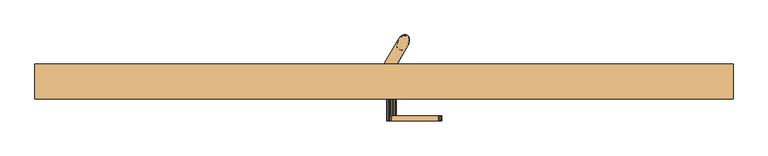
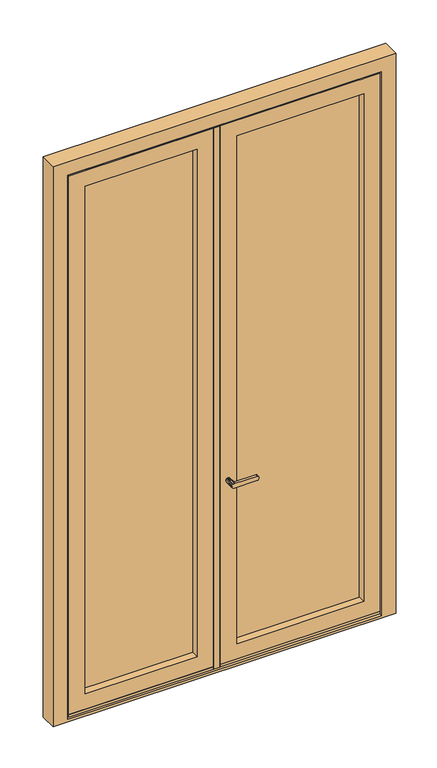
"""IFC4 building model written with IfcOpenShell, lengths in millimetres: door geometry, RDC Tierce."""

from ifc_helpers import new_model, si_unit, frame, origin, place, context, project, spatial, polyline, outline, extrude, faceted_brep, source, transform, mapped, element, save


def door_b7e93c7d(model_context):
    return source(origin(), model_context, "Body", "SolidModel", [
        extrude(outline(polyline([(83.0, 510.0), (83.0, 518.3), (842.0, 518.3), (842.0, 510.0), (83.0, 510.0)])), frame((0.0, 0.0, 176.0160203), z_axis=(0.0, 0.0, 1.0), x_axis=(1.0, 0.0, 0.0)), (0.0, 0.0, 1.0), 13.9839797),
        faceted_brep([(1724.0, 510.0, 3184.0), (1724.0, 518.3, 3184.0), (1724.0, 518.3, 167.8651688), (1724.0, 510.0, 165.0072496), (76.0, 518.3, 3184.0), (76.0, 518.3, 167.8651688), (55.5, 518.3, 167.8651688), (55.5, 518.3, 3204.5), (1744.5, 518.3, 3204.5), (1744.5, 518.3, 167.8651688), (1744.5, 591.7, 3204.5), (1744.5, 591.7, 164.3), (1744.5, 532.0, 164.3), (1744.5, 532.0, 170.0), (1744.5, 524.5, 170.0), (1756.0, 599.9993365, 150.0), (1756.0, 591.7, 150.0), (1756.0, 591.7, 3216.0), (1756.0, 599.9993365, 3216.0), (1800.0, 599.9993365, 150.0), (44.0, 599.9993365, 3216.0), (44.0, 599.9993365, 150.0), (0.0, 599.9993365, 150.0), (0.0, 599.9993365, 3260.0), (1800.0, 599.9993365, 3260.0), (76.0, 510.0, 3184.0), (76.0, 510.0, 165.0072496), (44.0, 591.7, 3216.0), (44.0, 591.7, 150.0), (55.5, 591.7, 3204.5), (55.5, 524.5, 170.0), (55.5, 532.0, 170.0), (55.5, 532.0, 164.3), (55.5, 591.7, 164.3), (0.0, 510.0, 3260.0), (1800.0, 510.0, 3260.0), (1800.0, 510.0, 150.0), (0.0, 510.0, 150.0)], [[[0, 1, 2, 3]], [[1, 4, 5, 6, 7, 8, 9, 2]], [[8, 10, 11, 12, 13, 14, 9]], [[15, 16, 17, 18]], [[19, 15, 18, 20, 21, 22, 23, 24]], [[4, 25, 26, 5]], [[20, 27, 28, 21]], [[29, 7, 6, 30, 31, 32, 33]], [[25, 4, 1, 0]], [[27, 20, 18, 17]], [[23, 34, 35, 24]], [[8, 7, 29, 10]], [[19, 24, 35, 36]], [[34, 23, 22, 37]], [[35, 34, 37, 36], [25, 0, 3, 26]], [[16, 15, 19, 36, 37, 22, 21, 28]], [[14, 30, 6, 5, 26, 3, 2, 9]], [[27, 17, 16, 28], [11, 10, 29, 33]], [[32, 12, 11, 33]], [[12, 32, 31, 13]], [[13, 31, 30, 14]]]),
        faceted_brep([(869.5, 518.3, 3188.5), (869.5, 591.7, 3188.5), (869.5, 591.7, 178.5), (869.5, 518.3, 178.5), (849.0, 591.7, 3209.0), (849.0, 591.7, 158.0), (1749.0, 591.7, 158.0), (1749.0, 591.7, 3209.0), (1728.5, 591.7, 3188.5), (1728.5, 591.7, 178.5), (1728.5, 518.3, 178.5), (1728.5, 518.3, 3188.5), (1717.0, 518.3, 3177.0), (1717.0, 518.3, 190.0), (881.0, 518.3, 190.0), (881.0, 518.3, 3177.0), (881.0, 510.0, 3177.0), (881.0, 510.0, 190.0), (1717.0, 510.0, 190.0), (1717.0, 510.0, 3177.0), (1631.9999695, 510.0, 3091.9999695), (1631.9999695, 510.0, 275.0000305), (966.0000305, 510.0, 275.0000305), (966.0000305, 510.0, 3091.9999695), (966.0000305, 551.0, 3091.9999695), (966.0000305, 551.0, 275.0000305), (1631.9999695, 551.0, 275.0000305), (1647.0, 551.0, 3107.0), (1647.0, 551.0, 260.0), (951.0, 551.0, 260.0), (951.0, 551.0, 3107.0), (1631.9999695, 551.0, 3091.9999695), (951.0, 589.0, 3107.0), (951.0, 589.0, 260.0), (1647.0, 589.0, 260.0), (1647.0, 589.0, 3107.0), (1630.0, 589.0, 3090.0), (1630.0, 589.0, 277.0), (968.0, 589.0, 277.0), (968.0, 589.0, 3090.0), (968.0, 600.0, 3090.0), (968.0, 600.0, 277.0), (1630.0, 600.0, 277.0), (1749.0, 600.0, 3209.0), (1749.0, 600.0, 158.0), (849.0, 600.0, 158.0), (849.0, 600.0, 3209.0), (1630.0, 600.0, 3090.0)], [[[0, 1, 2, 3]], [[4, 5, 6, 7], [8, 9, 2, 1]], [[3, 2, 9, 10]], [[0, 3, 10, 11], [12, 13, 14, 15]], [[16, 15, 14, 17]], [[17, 14, 13, 18]], [[16, 17, 18, 19], [20, 21, 22, 23]], [[24, 23, 22, 25]], [[25, 22, 21, 26]], [[27, 28, 29, 30], [24, 25, 26, 31]], [[32, 30, 29, 33]], [[33, 29, 28, 34]], [[32, 33, 34, 35], [36, 37, 38, 39]], [[40, 39, 38, 41]], [[41, 38, 37, 42]], [[43, 44, 45, 46], [40, 41, 42, 47]], [[4, 46, 45, 5]], [[5, 45, 44, 6]], [[10, 9, 8, 11]], [[18, 13, 12, 19]], [[26, 21, 20, 31]], [[34, 28, 27, 35]], [[42, 37, 36, 47]], [[6, 44, 43, 7]], [[11, 8, 1, 0]], [[19, 12, 15, 16]], [[31, 20, 23, 24]], [[35, 27, 30, 32]], [[47, 36, 39, 40]], [[7, 43, 46, 4]]]),
        faceted_brep([(964.2287431, 669.5957857, 3153.5), (962.3389959, 672.5301259, 3153.5), (959.7797595, 674.6325784, 3153.5), (956.6793647, 675.7977178, 3153.5), (953.1932781, 675.9671188, 3153.5), (949.4963068, 675.1322872, 3153.5), (945.7738322, 673.3350848, 3153.5), (942.212515, 670.6656309, 3153.5), (938.9909342, 667.257783, 3153.5), (936.2706335, 663.2824248, 3153.5), (934.1880202, 658.9388975, 3153.5), (932.847525, 654.4450036, 3153.5), (932.3163661, 650.0260857, 3153.5), (932.6211779, 645.9037268, 3153.5), (933.7466761, 642.2846393, 3153.5), (935.6364232, 639.3502991, 3153.5), (938.1956596, 637.2478466, 3153.5), (941.2960545, 636.0827073, 3153.5), (944.7821411, 635.9133062, 3153.5), (948.4791124, 636.7481378, 3153.5), (952.2015869, 638.5453402, 3153.5), (955.7629042, 641.2147941, 3153.5), (958.9844849, 644.622642, 3153.5), (961.7047856, 648.5980002, 3153.5), (963.787399, 652.9415275, 3153.5), (965.1278941, 657.4354214, 3153.5), (965.6590531, 661.8543393, 3153.5), (965.3542412, 665.9766982, 3153.5), (941.2960545, 636.0827073, 213.5), (938.1956596, 637.2478466, 213.5), (935.6364232, 639.3502991, 213.5), (933.7466761, 642.2846393, 213.5), (932.6211779, 645.9037268, 213.5), (932.3163661, 650.0260857, 213.5), (932.847525, 654.4450036, 213.5), (934.1880202, 658.9388975, 213.5), (936.2706335, 663.2824248, 213.5), (938.9909342, 667.257783, 213.5), (942.212515, 670.6656309, 213.5), (945.7738322, 673.3350848, 213.5), (949.4963068, 675.1322872, 213.5), (953.1932781, 675.9671188, 213.5), (956.6793647, 675.7977178, 213.5), (959.7797595, 674.6325784, 213.5), (962.3389959, 672.5301259, 213.5), (964.2287431, 669.5957857, 213.5), (965.3542412, 665.9766982, 213.5), (965.6590531, 661.8543393, 213.5), (965.1278941, 657.4354214, 213.5), (963.787399, 652.9415275, 213.5), (961.7047856, 648.5980002, 213.5), (958.9844849, 644.622642, 213.5), (955.7629042, 641.2147941, 213.5), (952.2015869, 638.5453402, 213.5), (948.4791124, 636.7481378, 213.5), (944.7821411, 635.9133062, 213.5), (959.5501855, 674.7611228, 3089.7321538), (964.8914925, 667.8611962, 306.4221304), (961.7047856, 648.5980002, 305.5697523), (951.359707, 675.6737836, 3060.5778671), (951.3597056, 675.6737832, 297.5419121), (958.2880419, 675.3371112, 368.2635006), (946.2900651, 673.6420789, 369.5898573), (952.7439949, 675.9179429, 447.3382127), (960.4070198, 674.2387511, 2325.2617526), (965.6393196, 663.5166736, 2371.270511), (965.6402039, 663.4993464, 2279.4216291), (961.1357621, 673.6929778, 2998.7364846), (965.6668016, 662.4549118, 2997.4101505), (964.4138734, 669.1747858, 2922.6711926), (961.7047856, 648.5980002, 3061.4302477), (936.2706335, 663.2824248, 3061.4302446), (936.2706335, 663.2824248, 305.5697496), (948.8832653, 674.9019683, 2971.9520928), (961.7047856, 648.5980002, 397.6395047), (965.4613001, 665.3306248, 395.0479211), (960.0058696, 674.4980332, 277.2678401), (947.4593332, 674.2677615, 1637.7851435), (936.2706335, 663.2824248, 1594.5462904), (936.2706335, 663.2824248, 1683.5), (936.2706335, 663.2824248, 1686.61604), (957.9473277, 675.4583328, 527.5908333), (962.8328313, 671.9295452, 460.5450652), (958.0412337, 675.4262682, 2772.7066085), (959.132128, 674.9754772, 2695.0987736), (947.1795786, 674.1267542, 2740.9388958), (964.8914918, 667.8611986, 3069.4580815), (959.7797596, 674.6325784, 1042.1278204), (947.9948217, 674.5225872, 991.9696377), (947.444062, 674.2602042, 1086.1174943), (936.2706335, 663.2824248, 2969.360495), (947.735899, 674.4018393, 2832.4243889), (936.2706335, 663.2824248, 2786.7790086), (936.2706335, 663.2824248, 2877.290743), (936.2706335, 663.2824248, 2878.0697518), (958.1399278, 675.3914725, 765.8782308), (965.6350796, 663.5960372, 811.9534399), (965.6470668, 661.5048141, 719.8836883), (959.1321281, 674.9754772, 2603.3171294), (947.2122977, 674.1435263, 2649.2586503), (958.6914902, 675.1755778, 1961.6568095), (958.8079776, 675.1251495, 1871.2936098), (946.9399525, 674.0016473, 1915.8166862), (947.5216083, 674.2984129, 2187.4071194), (947.9162165, 674.4864172, 2282.5376683), (960.4070198, 674.2387512, 2233.5284009), (960.3560844, 674.273194, 945.9676716), (949.4102834, 675.1015175, 2371.5612773), (936.2706335, 663.2824248, 2328.3777678), (936.2706335, 663.2824248, 2416.9419812), (936.2706335, 663.2824248, 2420.0580171), (946.9399524, 674.0016472, 2004.6536365), (936.2706335, 663.2824248, 1961.6567821), (936.2706335, 663.2824248, 2050.2209906), (936.2706335, 663.2824248, 2053.3370314), (961.7047856, 648.5980002, 2233.5814859), (965.6293323, 663.6953803, 2185.7766291), (947.2617988, 674.1687597, 1180.2324452), (959.2109681, 674.936934, 1226.2673211), (959.2109682, 674.9369339, 1134.1403833), (947.2294745, 674.1523016, 1548.5114468), (959.1595289, 674.9621783, 1594.5463226), (959.1732382, 674.955486, 1502.5843687), (959.8901066, 674.5679242, 1321.4808949), (947.0593634, 674.064491, 1270.1486683), (965.5823008, 664.3143924, 2649.2079521), (961.7047856, 648.5980002, 2416.9419812), (961.7047856, 648.5980002, 2328.3777706), (961.7047856, 648.5980002, 2325.2617336), (936.2706335, 663.2824248, 1226.2672804), (936.2706335, 663.2824248, 1316.7790094), (936.2706335, 663.2824248, 1318.33703), (948.0268603, 674.537208, 2093.7326204), (959.8835237, 674.5718347, 2141.9012613), (965.6644577, 662.7549838, 2004.3808919), (965.5233186, 664.86819, 1912.7006463), (947.4544518, 674.2653476, 2554.8345692), (936.2706335, 663.2824248, 2511.7382664), (936.2706335, 663.2824248, 2601.0814859), (936.2706335, 663.2824248, 2603.4185157), (965.5805232, 664.3336366, 1180.2038525), (965.5328457, 664.788256, 1276.0346658), (961.7047856, 648.5980002, 581.7790094), (965.5916894, 664.2090554, 535.7441828), (965.6465704, 663.3647844, 625.7406746), (961.9841714, 672.9127478, 687.5049796), (952.9584629, 675.9432953, 618.4606327), (948.1093169, 674.574513, 710.5745419), (965.6255817, 663.7560342, 2555.0466232), (959.8870984, 674.5697121, 2511.7382826), (956.3273581, 675.8630559, 2912.7142893), (961.1753973, 673.6602495, 2846.4250582), (960.35827, 674.2717254, 2418.5417079), (948.1880756, 674.6097094, 2460.3494212), (948.1839058, 674.6078567, 1726.9545291), (947.4585124, 674.2673557, 1821.4385793), (959.8870984, 674.569712, 1778.2963186), (965.5858899, 664.2748807, 1548.6658357), (965.5209615, 664.8875291, 1644.3330014), (965.6579437, 663.052861, 1087.5784346), (959.8333021, 674.6014439, 1410.4068219), (948.0643525, 674.5542281, 1359.8515949), (947.462367, 674.2692609, 1454.202984), (958.5899933, 675.2181109, 1678.7255593), (965.6205639, 663.8328979, 1454.2994177), (961.7047856, 648.5980002, 1958.540743), (961.7047856, 648.5980002, 1869.9765385), (961.7047856, 648.5980002, 1866.8604953), (965.6423683, 663.4556578, 2462.9768728), (961.7047856, 648.5980002, 2509.0117336), (961.7047856, 648.5980002, 2420.0580171), (965.6539623, 663.177506, 1732.4217383), (961.7047856, 648.5980002, 1775.1802477), (961.7047856, 648.5980002, 1686.6160399), (961.7047856, 648.5980002, 1683.5), (965.6249603, 663.7658048, 998.1135269), (965.6661177, 662.6095868, 1362.6191719), (961.7047856, 648.5980002, 1408.459257), (961.7047856, 648.5980002, 1318.3370299), (961.7047856, 648.5980002, 1316.7790094), (965.6064591, 660.7982343, 461.0612604), (961.7047856, 648.5980002, 489.709257), (942.3682189, 670.8040573, 443.6744212), (936.2706335, 663.2824248, 397.639505), (936.2706335, 663.2824248, 489.7092604), (936.2706335, 663.2824248, 857.9882704), (936.2706335, 663.2824248, 950.05802), (948.9209698, 674.9168748, 901.7243662), (961.8620763, 673.0360903, 620.4664053), (961.7047856, 648.5980002, 673.8487617), (959.7797594, 674.6325785, 849.807523), (965.6477825, 663.3368163, 904.0231906), (947.2941739, 674.1851711, 811.9534434), (945.2462879, 673.0014505, 2903.945513), (936.2706335, 663.2824248, 2695.098765), (936.2706335, 663.2824248, 2785.2209906), (965.5206083, 664.8904118, 2745.2357332), (965.2919578, 658.2847045, 2914.6109501), (965.6656565, 662.6597778, 2855.6263498), (936.2706335, 663.2824248, 2693.1512383), (936.2706335, 663.2824248, 2509.0117336), (961.7047856, 648.5980002, 2785.2209906), (961.7047856, 648.5980002, 2695.0987563), (961.7047856, 648.5980002, 2693.1512383), (936.2706335, 663.2824248, 2236.6975243), (936.2706335, 663.2824248, 2325.2617336), (964.7807685, 668.2029128, 2803.479417), (936.2706335, 663.2824248, 2141.9012383), (936.2706335, 663.2824248, 2145.0172808), (961.7047856, 648.5980002, 2601.0814859), (961.7047856, 648.5980002, 2511.7382635), (961.7047856, 648.5980002, 2236.6975242), (965.585322, 664.2811931, 2092.1012157), (961.7047856, 648.5980002, 2141.9012383), (959.7729217, 674.6365226, 2052.2331977), (961.7047856, 648.5980002, 2050.2209906), (961.7047856, 648.5980002, 1961.656785), (965.6372232, 663.5566402, 1821.0204006), (961.7047856, 648.5980002, 1778.2962921), (961.7047856, 648.5980002, 2053.3370314), (961.7047856, 648.5980002, 2145.0172778), (936.2706335, 663.2824248, 2233.5814859), (936.2706335, 663.2824248, 1869.9765328), (936.2706335, 663.2824248, 1958.540743), (936.2706335, 663.2824248, 1775.1802477), (936.2706335, 663.2824248, 1778.2962835), (936.2706335, 663.2824248, 1866.8604953), (936.2706335, 663.2824248, 1502.476535), (936.2706335, 663.2824248, 1591.8197523), (936.2706335, 663.2824248, 1408.459257), (936.2706335, 663.2824248, 1410.4067796), (961.7047856, 648.5980002, 1594.5462874), (961.7047856, 648.5980002, 1591.8197523), (936.2706335, 663.2824248, 1500.1395047), (936.2706335, 663.2824248, 1134.197525), (936.2706335, 663.2824248, 1225.0987617), (936.2706335, 663.2824248, 1041.7382664), (936.2706335, 663.2824248, 1042.1277696), (961.7047856, 648.5980002, 1226.2672774), (961.7047856, 648.5980002, 1225.0987617), (961.7047856, 648.5980002, 857.9882664), (961.7047856, 648.5980002, 765.9185141), (936.2706335, 663.2824248, 765.918515), (936.2706335, 663.2824248, 581.77901), (936.2706335, 663.2824248, 673.8487596), (942.5327716, 670.9480234, 627.8139401), (961.7047856, 648.5980002, 950.0580188), (961.7047856, 648.5980002, 1500.1395047), (961.7047856, 648.5980002, 1410.4067824), (961.7047856, 648.5980002, 1041.7382664), (936.2706335, 663.2824248, 1133.4185141), (961.7047856, 648.5980002, 1133.4185141), (961.7047856, 648.5980002, 1042.1277724), (945.4201487, 673.1136529, 535.7441881), (961.7047856, 648.5980002, 2603.4185099), (961.7047856, 648.5980002, 1502.4765349), (961.7047856, 648.5980002, 1134.1975249), (961.7047856, 648.5980002, 2877.290743), (961.7047856, 648.5980002, 2969.3604953), (961.7047856, 648.5980002, 2786.7790085), (961.7047856, 648.5980002, 2878.0697547), (938.4252337, 637.1193022, 3089.7321538), (933.0839266, 644.0192288, 306.4221304), (946.6157121, 636.2066414, 3060.5778671), (946.6157135, 636.2066418, 297.5419121), (939.6873772, 636.5433138, 368.2635006), (951.685354, 638.2383461, 369.5898573), (945.2314243, 635.9624821, 447.3382127), (937.5683993, 637.6416739, 2325.2617526), (932.3360996, 648.3637514, 2371.270511), (932.3352152, 648.3810786, 2279.4216291), (936.839657, 638.1874472, 2998.7364846), (932.3086175, 649.4255132, 2997.4101505), (933.5615457, 642.7056392, 2922.6711926), (949.0921538, 636.9784567, 2971.9520928), (932.514119, 646.5498002, 395.0479211), (937.9695495, 637.3823918, 277.2678401), (950.516086, 637.6126635, 1637.7851435), (940.0280915, 636.4220922, 527.5908333), (935.1425878, 639.9508798, 460.5450652), (939.9341854, 636.4541568, 2772.7066085), (938.8432912, 636.9049478, 2695.0987736), (950.7958405, 637.7536708, 2740.9388958), (933.0839274, 644.0192264, 3069.4580815), (938.1956595, 637.2478466, 1042.1278204), (949.9805975, 637.3578378, 991.9696377), (950.5313571, 637.6202208, 1086.1174943), (950.2395201, 637.4785857, 2832.4243889), (939.8354914, 636.4889525, 765.8782308), (932.3403396, 648.2843878, 811.9534399), (932.3283523, 650.3756109, 719.8836883), (938.8432911, 636.9049478, 2603.3171294), (950.7631215, 637.7368987, 2649.2586503), (939.2839289, 636.7048472, 1961.6568095), (939.1674415, 636.7552755, 1871.2936098), (951.0354666, 637.8787777, 1915.8166862), (950.4538109, 637.5820121, 2187.4071194), (950.0592026, 637.3940078, 2282.5376683), (937.5683994, 637.6416738, 2233.5284009), (937.6193348, 637.607231, 945.9676716), (948.5651357, 636.7789075, 2371.5612773), (951.0354667, 637.8787778, 2004.6536365), (932.3460868, 648.1850447, 2185.7766291), (938.7644509, 636.9434911, 1134.1403833), (950.7459446, 637.7281234, 1548.5114468), (938.8158902, 636.9182467, 1594.5463226), (938.8021809, 636.924939, 1502.5843687), (938.0853125, 637.3125008, 1321.4808949), (938.764451, 636.9434911, 1226.2673211), (950.9160557, 637.815934, 1270.1486683), (932.3931184, 647.5660326, 2649.2079521), (949.9485588, 637.343217, 2093.7326204), (938.0918955, 637.3085903, 2141.9012613), (932.3109615, 649.1254412, 2004.3808919), (932.4521005, 647.012235, 1912.7006463), (950.5209674, 637.6150774, 2554.8345692), (932.3948959, 647.5467884, 1180.2038525), (932.4425734, 647.092169, 1276.0346658), (932.3837298, 647.6713696, 535.7441828), (932.3288488, 648.5156406, 625.7406746), (935.9912477, 638.9676772, 687.5049796), (945.0169562, 635.9371297, 618.4606327), (949.8661022, 637.305912, 710.5745419), (932.3498375, 648.1243908, 2555.0466232), (938.0883208, 637.3107129, 2511.7382826), (941.648061, 636.0173691, 2912.7142893), (936.8000218, 638.2201755, 2846.4250582), (937.6171491, 637.6086996, 2418.5417079), (949.7873436, 637.2707156, 2460.3494212), (949.7915133, 637.2725683, 1726.9545291), (950.5169067, 637.6130693, 1821.4385793), (938.0883207, 637.310713, 1778.2963186), (932.3895292, 647.6055443, 1548.6658357), (932.4544577, 646.9928959, 1644.3330014), (932.3174755, 648.827564, 1087.5784346), (938.1421171, 637.2789811, 1410.4068219), (949.9110666, 637.3261969, 1359.8515949), (950.5130521, 637.6111641, 1454.202984), (939.3854258, 636.6623141, 1678.7255593), (932.3548552, 648.0475271, 1454.2994177), (932.3330509, 648.4247672, 2462.9768728), (932.3214568, 648.702919, 1732.4217383), (932.3504589, 648.1146202, 998.1135269), (932.3093015, 649.2708382, 1362.6191719), (932.36896, 651.0821907, 461.0612604), (955.6072002, 641.0763677, 443.6744212), (949.0544493, 636.9635502, 901.7243662), (936.1133428, 638.8443347, 620.4664053), (938.1956597, 637.2478465, 849.807523), (932.3276367, 648.5436087, 904.0231906), (950.6812452, 637.6952539, 811.9534434), (952.7291312, 638.8789745, 2903.945513), (932.4548108, 646.9900132, 2745.2357332), (932.6834613, 653.5957205, 2914.6109501), (932.3097627, 649.2206472, 2855.6263498), (933.1946506, 643.6775122, 2803.479417), (932.3900972, 647.5992319, 2092.1012157), (938.2024974, 637.2439024, 2052.2331977), (932.3381959, 648.3237848, 1821.0204006), (950.7136203, 637.7116653, 1180.2324452), (955.4426475, 640.9324016, 627.8139401), (952.5552704, 638.7667721, 535.7441881)], [[[0, 1, 2, 3, 4, 5, 6, 7, 8, 9, 10, 11, 12, 13, 14, 15, 16, 17, 18, 19, 20, 21, 22, 23, 24, 25, 26, 27]], [[28, 29, 30, 31, 32, 33, 34, 35, 36, 37, 38, 39, 40, 41, 42, 43, 44, 45, 46, 47, 48, 49, 50, 51, 52, 53, 54, 55]], [[2, 1, 56]], [[57, 58, 48]], [[7, 6, 59]], [[5, 4, 59]], [[38, 60, 39]], [[61, 62, 63]], [[64, 65, 66]], [[67, 68, 69]], [[40, 60, 41]], [[3, 56, 4]], [[24, 23, 70]], [[58, 50, 49]], [[71, 9, 8]], [[37, 36, 72]], [[73, 59, 67]], [[60, 40, 39]], [[74, 58, 75]], [[45, 76, 57]], [[77, 78, 79, 80]], [[71, 8, 7]], [[63, 81, 82]], [[83, 84, 85]], [[25, 86, 26]], [[24, 70, 25]], [[87, 88, 89]], [[75, 58, 57]], [[72, 62, 60]], [[5, 59, 6]], [[90, 71, 73]], [[70, 68, 86]], [[42, 41, 76]], [[46, 57, 47]], [[91, 92, 93, 94]], [[95, 96, 97]], [[43, 42, 76]], [[84, 98, 99]], [[86, 27, 26]], [[100, 101, 102]], [[4, 56, 59]], [[67, 56, 86]], [[103, 104, 105]], [[46, 45, 57]], [[58, 49, 48]], [[76, 41, 60]], [[59, 71, 7]], [[45, 44, 76]], [[56, 1, 0]], [[75, 57, 61]], [[61, 76, 60]], [[27, 86, 0]], [[47, 57, 48]], [[37, 72, 38]], [[87, 106, 88]], [[0, 86, 56]], [[38, 72, 60]], [[73, 71, 59]], [[67, 86, 68]], [[61, 60, 62]], [[25, 70, 86]], [[107, 108, 109, 110]], [[111, 112, 113, 114]], [[66, 115, 116]], [[117, 118, 119]], [[120, 121, 122]], [[123, 118, 124]], [[84, 125, 98]], [[85, 91, 83]], [[126, 127, 128, 65]], [[124, 129, 130, 131]], [[132, 103, 133]], [[100, 134, 135]], [[136, 137, 138, 139]], [[118, 140, 119]], [[140, 118, 141]], [[142, 143, 144]], [[145, 146, 147]], [[148, 149, 98]], [[150, 69, 151]], [[152, 153, 149]], [[136, 149, 153]], [[154, 155, 156]], [[121, 157, 122]], [[121, 158, 157]], [[119, 159, 87]], [[160, 161, 162]], [[163, 121, 77]], [[133, 103, 105]], [[122, 164, 160]], [[102, 111, 100]], [[135, 165, 166, 167]], [[168, 169, 170, 126]], [[171, 172, 173, 174]], [[106, 87, 175]], [[176, 177, 178, 179]], [[180, 181, 74]], [[182, 183, 184]], [[142, 181, 143]], [[185, 186, 187]], [[188, 145, 144]], [[143, 180, 82]], [[189, 144, 97]], [[82, 81, 143]], [[190, 191, 96]], [[145, 147, 95]], [[192, 190, 95]], [[193, 94, 90]], [[85, 194, 195, 92]], [[84, 196, 125]], [[69, 197, 198]], [[92, 91, 85]], [[91, 193, 150]], [[150, 151, 91]], [[139, 99, 136]], [[99, 139, 199, 194]], [[98, 136, 99]], [[153, 110, 200, 137]], [[136, 153, 137]], [[98, 149, 136]], [[148, 98, 125]], [[196, 201, 202, 203]], [[125, 196, 203]], [[108, 107, 104]], [[152, 107, 153]], [[103, 204, 104]], [[104, 204, 205, 108]], [[152, 64, 107]], [[85, 99, 194]], [[99, 85, 84]], [[73, 67, 150]], [[83, 206, 196]], [[132, 114, 207, 208]], [[103, 132, 208]], [[65, 168, 126]], [[148, 209, 210, 169]], [[148, 168, 149]], [[209, 148, 125]], [[152, 149, 168]], [[169, 168, 148]], [[64, 152, 65]], [[168, 65, 152]], [[128, 66, 65]], [[66, 128, 211, 115]], [[66, 105, 64]], [[116, 105, 66]], [[133, 116, 212]], [[116, 213, 212]], [[64, 105, 104]], [[133, 105, 116]], [[132, 133, 214]], [[134, 215, 216, 165]], [[100, 135, 101]], [[215, 134, 212]], [[217, 167, 218, 172]], [[111, 102, 112]], [[212, 214, 133]], [[212, 213, 219, 215]], [[116, 115, 220, 213]], [[103, 208, 221, 204]], [[110, 153, 107]], [[107, 64, 104]], [[214, 212, 134]], [[134, 165, 135]], [[222, 102, 155]], [[102, 222, 223, 112]], [[101, 155, 102]], [[154, 80, 224, 225]], [[155, 154, 225]], [[101, 156, 155]], [[217, 156, 101]], [[77, 121, 120]], [[163, 77, 154]], [[100, 111, 214]], [[132, 111, 114]], [[155, 225, 226, 222]], [[227, 120, 162]], [[120, 227, 228, 78]], [[122, 162, 120]], [[161, 131, 229, 230]], [[162, 161, 230]], [[122, 160, 162]], [[164, 122, 157]], [[158, 174, 231, 232]], [[157, 158, 232]], [[124, 117, 129]], [[141, 118, 123]], [[167, 217, 135]], [[154, 156, 163]], [[171, 217, 172]], [[135, 217, 101]], [[171, 163, 156]], [[162, 230, 233, 227]], [[234, 117, 89]], [[117, 234, 235, 129]], [[119, 89, 117]], [[88, 186, 236, 237]], [[89, 88, 237]], [[119, 87, 89]], [[87, 159, 175]], [[141, 179, 238, 239]], [[140, 141, 239]], [[185, 187, 192]], [[187, 190, 192]], [[240, 241, 96]], [[185, 192, 242]], [[175, 191, 106]], [[147, 242, 192]], [[187, 106, 190]], [[243, 244, 245]], [[188, 144, 143]], [[191, 240, 96]], [[240, 191, 246]], [[95, 190, 96]], [[164, 247, 248, 177]], [[160, 123, 161]], [[175, 246, 191]], [[190, 106, 191]], [[249, 246, 175]], [[159, 249, 175]], [[117, 124, 118]], [[161, 124, 131]], [[89, 237, 250, 234]], [[187, 88, 106]], [[186, 88, 187]], [[179, 141, 176]], [[247, 164, 157]], [[176, 123, 160]], [[154, 77, 80]], [[77, 120, 78]], [[159, 140, 251]], [[159, 251, 252, 249]], [[119, 140, 159]], [[132, 214, 111]], [[100, 214, 134]], [[217, 171, 156]], [[158, 171, 174]], [[245, 244, 147]], [[253, 245, 146]], [[176, 164, 177]], [[164, 176, 160]], [[97, 241, 189]], [[146, 145, 188]], [[189, 142, 144]], [[125, 203, 254, 209]], [[157, 232, 255, 247]], [[140, 239, 256, 251]], [[163, 158, 121]], [[171, 158, 163]], [[124, 161, 123]], [[141, 123, 176]], [[184, 243, 253]], [[183, 62, 72]], [[75, 61, 82]], [[62, 182, 63]], [[253, 81, 63]], [[198, 197, 257]], [[258, 68, 70]], [[198, 201, 206]], [[68, 197, 69]], [[198, 151, 69]], [[192, 95, 147]], [[97, 145, 95]], [[151, 198, 206]], [[198, 257, 259, 201]], [[244, 242, 147]], [[63, 82, 61]], [[180, 75, 82]], [[241, 97, 96]], [[145, 97, 144]], [[69, 150, 67]], [[193, 73, 150]], [[73, 193, 90]], [[94, 193, 91]], [[182, 184, 253]], [[81, 253, 146]], [[75, 180, 74]], [[181, 180, 143]], [[84, 83, 196]], [[151, 83, 91]], [[197, 258, 260, 257]], [[258, 197, 68]], [[43, 76, 44]], [[57, 76, 61]], [[2, 56, 3]], [[59, 56, 67]], [[188, 81, 146]], [[81, 188, 143]], [[183, 182, 62]], [[63, 182, 253]], [[151, 206, 83]], [[196, 206, 201]], [[243, 245, 253]], [[146, 245, 147]], [[16, 15, 261]], [[262, 72, 34]], [[21, 20, 263]], [[19, 18, 263]], [[52, 264, 53]], [[265, 266, 267]], [[268, 269, 270]], [[271, 272, 273]], [[54, 264, 55]], [[17, 261, 18]], [[10, 9, 71]], [[72, 36, 35]], [[70, 23, 22]], [[51, 50, 58]], [[274, 263, 271]], [[264, 54, 53]], [[183, 72, 275]], [[31, 276, 262]], [[277, 231, 174, 173]], [[70, 22, 21]], [[267, 278, 279]], [[280, 281, 282]], [[11, 283, 12]], [[10, 71, 11]], [[284, 285, 286]], [[275, 72, 262]], [[58, 266, 264]], [[19, 263, 20]], [[258, 70, 274]], [[71, 272, 283]], [[28, 55, 276]], [[32, 262, 33]], [[287, 259, 257, 260]], [[288, 289, 290]], [[29, 28, 276]], [[281, 291, 292]], [[283, 13, 12]], [[293, 294, 295]], [[18, 261, 263]], [[271, 261, 283]], [[296, 297, 298]], [[32, 31, 262]], [[72, 35, 34]], [[276, 55, 264]], [[263, 70, 21]], [[31, 30, 276]], [[261, 15, 14]], [[275, 262, 265]], [[265, 276, 264]], [[13, 283, 14]], [[33, 262, 34]], [[51, 58, 52]], [[284, 299, 285]], [[14, 283, 261]], [[52, 58, 264]], [[274, 70, 263]], [[271, 283, 272]], [[265, 264, 266]], [[11, 71, 283]], [[300, 127, 126, 170]], [[301, 216, 215, 219]], [[270, 221, 302]], [[303, 284, 286]], [[304, 305, 306]], [[307, 308, 309]], [[281, 310, 291]], [[282, 287, 280]], [[109, 108, 205, 269]], [[309, 238, 179, 178]], [[311, 296, 312]], [[293, 313, 314]], [[315, 210, 209, 254]], [[308, 316, 303]], [[316, 308, 317]], [[243, 318, 319]], [[320, 321, 322]], [[323, 324, 291]], [[325, 273, 326]], [[327, 328, 324]], [[315, 324, 328]], [[329, 330, 331]], [[305, 332, 306]], [[305, 333, 332]], [[303, 334, 284]], [[335, 336, 337]], [[338, 305, 277]], [[312, 296, 298]], [[306, 339, 335]], [[295, 301, 293]], [[314, 223, 222, 226]], [[340, 200, 110, 109]], [[341, 224, 80, 79]], [[299, 284, 342]], [[343, 229, 131, 130]], [[344, 184, 183]], [[345, 74, 181]], [[243, 184, 318]], [[240, 246, 346]], [[347, 320, 319]], [[318, 344, 279]], [[244, 319, 290]], [[279, 278, 318]], [[348, 349, 289]], [[320, 322, 288]], [[350, 348, 288]], [[351, 260, 258]], [[282, 202, 201, 259]], [[281, 352, 310]], [[273, 353, 354]], [[259, 287, 282]], [[287, 351, 325]], [[325, 326, 287]], [[254, 292, 315]], [[292, 254, 203, 202]], [[291, 315, 292]], [[328, 170, 169, 210]], [[315, 328, 210]], [[291, 324, 315]], [[323, 291, 310]], [[352, 195, 194, 199]], [[310, 352, 199]], [[127, 300, 297]], [[327, 300, 328]], [[296, 211, 297]], [[297, 211, 128, 127]], [[327, 268, 300]], [[282, 292, 202]], [[292, 282, 281]], [[274, 271, 325]], [[280, 355, 352]], [[311, 219, 213, 220]], [[296, 311, 220]], [[269, 340, 109]], [[323, 138, 137, 200]], [[323, 340, 324]], [[138, 323, 310]], [[327, 324, 340]], [[200, 340, 323]], [[268, 327, 269]], [[340, 269, 327]], [[270, 205, 204, 221]], [[298, 268, 270]], [[269, 205, 270]], [[302, 298, 270]], [[312, 302, 356]], [[302, 207, 356]], [[268, 298, 297]], [[298, 302, 312]], [[311, 312, 357]], [[313, 113, 112, 223]], [[293, 314, 294]], [[113, 313, 356]], [[358, 226, 225, 224]], [[301, 295, 216]], [[356, 357, 312]], [[356, 207, 114, 113]], [[302, 221, 208, 207]], [[296, 220, 115, 211]], [[170, 328, 300]], [[300, 268, 297]], [[357, 356, 313]], [[313, 223, 314]], [[166, 295, 330]], [[295, 166, 165, 216]], [[294, 330, 295]], [[329, 173, 172, 218]], [[330, 329, 218]], [[294, 331, 330]], [[358, 331, 294]], [[277, 305, 304]], [[338, 277, 329]], [[293, 301, 357]], [[311, 301, 219]], [[330, 218, 167, 166]], [[255, 304, 337]], [[304, 255, 232, 231]], [[306, 337, 304]], [[336, 178, 177, 248]], [[337, 336, 248]], [[306, 335, 337]], [[339, 306, 332]], [[333, 79, 78, 228]], [[332, 333, 228]], [[309, 359, 238]], [[317, 308, 307]], [[226, 358, 314]], [[329, 331, 338]], [[341, 358, 224]], [[314, 358, 294]], [[341, 338, 331]], [[337, 248, 247, 255]], [[256, 359, 286]], [[359, 256, 239, 238]], [[359, 308, 303]], [[285, 246, 249, 252]], [[286, 285, 252]], [[359, 303, 286]], [[284, 334, 342]], [[317, 130, 129, 235]], [[316, 317, 235]], [[240, 346, 350]], [[346, 348, 350]], [[185, 242, 289]], [[240, 350, 241]], [[342, 349, 299]], [[322, 241, 350]], [[346, 299, 348]], [[142, 189, 360]], [[347, 319, 318]], [[349, 185, 289]], [[185, 349, 186]], [[288, 348, 289]], [[339, 233, 230, 229]], [[335, 307, 336]], [[342, 186, 349]], [[348, 299, 349]], [[236, 186, 342]], [[334, 236, 342]], [[359, 309, 308]], [[336, 309, 178]], [[286, 252, 251, 256]], [[346, 285, 299]], [[246, 285, 346]], [[130, 317, 343]], [[233, 339, 332]], [[343, 307, 335]], [[329, 277, 173]], [[277, 304, 231]], [[334, 316, 250]], [[334, 250, 237, 236]], [[303, 316, 334]], [[311, 357, 301]], [[293, 357, 313]], [[358, 341, 331]], [[333, 341, 79]], [[360, 189, 322]], [[361, 360, 321]], [[343, 339, 229]], [[339, 343, 335]], [[290, 242, 244]], [[321, 320, 347]], [[244, 243, 319]], [[310, 199, 139, 138]], [[332, 228, 227, 233]], [[316, 235, 234, 250]], [[338, 333, 305]], [[341, 333, 338]], [[309, 336, 307]], [[317, 307, 343]], [[181, 142, 361]], [[74, 266, 58]], [[275, 265, 279]], [[266, 345, 267]], [[361, 278, 267]], [[354, 353, 93]], [[90, 272, 71]], [[354, 195, 355]], [[272, 353, 273]], [[354, 326, 273]], [[350, 288, 322]], [[290, 320, 288]], [[326, 354, 355]], [[354, 93, 92, 195]], [[189, 241, 322]], [[267, 279, 265]], [[344, 275, 279]], [[242, 290, 289]], [[320, 290, 319]], [[273, 325, 271]], [[351, 274, 325]], [[274, 351, 258]], [[260, 351, 287]], [[345, 181, 361]], [[278, 361, 321]], [[275, 344, 183]], [[184, 344, 318]], [[281, 280, 352]], [[326, 280, 287]], [[353, 90, 94, 93]], [[90, 353, 272]], [[29, 276, 30]], [[262, 276, 265]], [[16, 261, 17]], [[263, 261, 271]], [[347, 278, 321]], [[278, 347, 318]], [[74, 345, 266]], [[267, 345, 361]], [[326, 355, 280]], [[352, 355, 195]], [[142, 360, 361]], [[321, 360, 322]]]),
        extrude(outline(polyline([(881.0, 510.0), (881.0, 518.3), (1717.0, 518.3), (1717.0, 510.0), (881.0, 510.0)])), frame((0.0, 0.0, 176.0), z_axis=(0.0, 0.0, 1.0), x_axis=(1.0, 0.0, 0.0)), (0.0, 0.0, 1.0), 14.0),
        faceted_brep([(902.0438995, 600.0, 3123.5), (902.0438995, 604.0, 3123.5), (935.9561005, 604.0, 3123.5), (935.9561005, 600.0, 3123.5), (902.0438995, 604.0, 3153.5), (935.9561005, 604.0, 3153.5), (935.9561005, 604.0, 3157.5), (935.9561005, 600.0, 3157.5), (902.0438995, 600.0, 3157.5), (902.0438995, 604.0, 3157.5), (936.2706335, 663.2824248, 3153.5), (938.9909342, 667.257783, 3153.5), (942.212515, 670.6656309, 3153.5), (945.7738322, 673.3350848, 3153.5), (949.4963068, 675.1322872, 3153.5), (953.1932781, 675.9671188, 3153.5), (956.6793647, 675.7977178, 3153.5), (959.7797595, 674.6325784, 3153.5), (962.3389959, 672.5301259, 3153.5), (964.2287431, 669.5957857, 3153.5), (965.3542412, 665.9766982, 3153.5), (965.6590531, 661.8543393, 3153.5), (965.1278941, 657.4354214, 3153.5), (963.787399, 652.9415275, 3153.5), (961.7047856, 648.5980002, 3153.5), (962.3389959, 672.5301259, 3157.5), (959.7797595, 674.6325784, 3157.5), (956.6793647, 675.7977178, 3157.5), (953.1932781, 675.9671188, 3157.5), (949.4963068, 675.1322872, 3157.5), (945.7738322, 673.3350848, 3157.5), (942.212515, 670.6656309, 3157.5), (938.9909342, 667.257783, 3157.5), (936.2706335, 663.2824248, 3157.5), (961.7047856, 648.5980002, 3157.5), (963.787399, 652.9415275, 3157.5), (965.1278941, 657.4354214, 3157.5), (965.6590531, 661.8543393, 3157.5), (965.3542412, 665.9766982, 3157.5), (964.2287431, 669.5957857, 3157.5), (936.2706335, 663.2824248, 3155.9099144), (961.7047856, 648.5980002, 3155.0900853), (963.3743297, 671.1586458, 3155.5), (951.3597081, 675.6737838, 3155.5), (965.6445577, 661.4468931, 3155.5)], [[[0, 1, 2, 3]], [[2, 1, 4, 5]], [[3, 2, 5, 6, 7]], [[0, 3, 7, 8]], [[1, 0, 8, 9, 4]], [[5, 4, 10, 11, 12, 13, 14, 15, 16, 17, 18, 19, 20, 21, 22, 23, 24]], [[25, 26, 27, 28, 29, 30, 31, 32, 33, 9, 8, 7, 6, 34, 35, 36, 37, 38, 39]], [[4, 9, 33, 40, 10]], [[5, 24, 41, 34, 6]], [[40, 33, 32]], [[11, 10, 40]], [[39, 42, 25]], [[43, 12, 40]], [[40, 12, 11]], [[43, 15, 14]], [[30, 43, 31]], [[28, 43, 29]], [[17, 16, 43]], [[41, 24, 23]], [[35, 34, 41]], [[13, 43, 14]], [[32, 31, 40]], [[16, 15, 43]], [[20, 19, 42]], [[13, 12, 43]], [[35, 41, 44]], [[30, 29, 43]], [[28, 27, 43]], [[40, 31, 43]], [[26, 43, 27]], [[17, 43, 42]], [[19, 18, 42]], [[20, 44, 21]], [[23, 22, 41]], [[22, 44, 41]], [[21, 44, 22]], [[44, 36, 35]], [[42, 43, 26]], [[17, 42, 18]], [[42, 26, 25]], [[38, 42, 39]], [[44, 42, 38]], [[20, 42, 44]], [[38, 37, 44]], [[37, 36, 44]]]),
        extrude(outline(polyline([(951.0, 589.0), (1647.0, 589.0), (1647.0, 551.0), (951.0, 551.0), (951.0, 589.0)])), frame((0.0, 0.0, 260.0), z_axis=(0.0, 0.0, 1.0), x_axis=(1.0, 0.0, 0.0)), (0.0, 0.0, 1.0), 2847.0),
        extrude(outline(polyline([(772.0, 551.0), (153.0, 551.0), (153.0, 589.0), (772.0, 589.0), (772.0, 551.0)])), frame((0.0, 0.0, 260.0), z_axis=(0.0, 0.0, 1.0), x_axis=(1.0, 0.0, 0.0)), (0.0, 0.0, 1.0), 2847.0),
        extrude(outline(polyline([(874.0, 510.0), (842.0, 510.0), (842.0, 518.3), (874.0, 518.3), (874.0, 510.0)])), frame((0.0, 0.0, 176.0160203), z_axis=(0.0, 0.0, 1.0), x_axis=(1.0, 0.0, 0.0)), (0.0, 0.0, 1.0), 3000.9839797),
        faceted_brep([(910.5227579, 510.0, 1208.4772421), (913.0056846, 510.0, 1210.3824588), (915.897114, 510.0, 1211.5801281), (919.0, 510.0, 1211.9886308), (922.102886, 510.0, 1211.5801281), (924.9943154, 510.0, 1210.3824588), (927.4772421, 510.0, 1208.4772421), (929.3824588, 510.0, 1205.9943154), (930.5801281, 510.0, 1203.102886), (930.9886308, 510.0, 1200.0), (930.5801281, 510.0, 1196.897114), (929.3824588, 510.0, 1194.0056846), (927.4772421, 510.0, 1191.5227579), (924.9943154, 510.0, 1189.6175412), (922.102886, 510.0, 1188.4198719), (919.0, 510.0, 1188.0113692), (915.897114, 510.0, 1188.4198719), (913.0056846, 510.0, 1189.6175412), (910.5227579, 510.0, 1191.5227579), (908.6175412, 510.0, 1194.0056846), (907.4198719, 510.0, 1196.897114), (907.0113692, 510.0, 1200.0), (907.4198719, 510.0, 1203.102886), (908.6175412, 510.0, 1205.9943154), (922.102886, 466.5001175, 1188.4198719), (919.0, 466.5001175, 1188.0113692), (924.9943154, 466.5001175, 1189.6175412), (929.3824588, 466.5001175, 1194.0056846), (927.4772421, 466.5001175, 1191.5227579), (930.5801281, 466.5001175, 1196.897114), (930.9886308, 466.5001175, 1200.0), (930.5801281, 466.5001175, 1203.102886), (929.3824588, 466.5001175, 1205.9943154), (924.9943154, 466.5001175, 1210.3824588), (927.4772421, 466.5001175, 1208.4772421), (922.102886, 466.5001175, 1211.5801281), (919.0, 466.5001175, 1211.9886308), (915.897114, 454.0000305, 1211.5801281), (919.0, 454.0000305, 1211.9886308), (913.0056846, 454.0000305, 1210.3824588), (908.6175412, 454.0000305, 1205.9943154), (910.5227579, 454.0000305, 1208.4772421), (907.4198719, 454.0000305, 1203.102886), (907.0113692, 454.0000305, 1200.0), (907.4198719, 454.0000305, 1196.897114), (908.6175412, 454.0000305, 1194.0056846), (913.0056846, 454.0000305, 1189.6175412), (910.5227579, 454.0000305, 1191.5227579), (915.897114, 454.0000305, 1188.4198719), (919.0, 454.0000305, 1188.0113692), (1040.6617926, 454.0000305, 1188.0113692), (1042.2039971, 454.0000305, 1188.2417274), (1043.6869356, 454.0000305, 1188.9239494), (1045.0536195, 454.0000305, 1190.0318178), (1046.2515279, 454.0000305, 1191.5227579), (1047.234626, 454.0000305, 1193.3394736), (1047.9651338, 454.0000305, 1195.4121496), (1048.4149782, 454.0000305, 1197.6611342), (1048.5668721, 454.0000305, 1200.0), (1048.4149782, 454.0000305, 1202.3388658), (1047.9651338, 454.0000305, 1204.5878504), (1047.234626, 454.0000305, 1206.6605264), (1046.2515279, 454.0000305, 1208.4772421), (1045.0536195, 454.0000305, 1209.9681822), (1043.6869356, 454.0000305, 1211.0760506), (1042.2039971, 454.0000305, 1211.7582726), (1040.6617926, 454.0000305, 1211.9886308), (1047.9651338, 466.5001175, 1195.4121496), (1047.234626, 466.5001175, 1193.3394736), (1046.2515279, 466.5001175, 1191.5227579), (1045.0536195, 466.5001175, 1190.0318178), (1043.6869356, 466.5001175, 1188.9239494), (1042.2039971, 466.5001175, 1188.2417274), (1040.6617926, 466.5001175, 1188.0113692), (1040.6617926, 466.5001175, 1211.9886308), (1042.2039971, 466.5001175, 1211.7582726), (1043.6869356, 466.5001175, 1211.0760506), (1045.0536195, 466.5001175, 1209.9681822), (1046.2515279, 466.5001175, 1208.4772421), (1047.234626, 466.5001175, 1206.6605264), (1047.9651338, 466.5001175, 1204.5878504), (1048.4149782, 466.5001175, 1202.3388658), (1048.5668721, 466.5001175, 1200.0), (1048.4149782, 466.5001175, 1197.6611342), (1040.6617926, 461.0756599, 1188.0113692), (1044.3882212, 460.2500761, 1189.4269715), (1046.7725017, 460.2500743, 1192.3944932), (1048.226482, 460.250074, 1196.5198842), (1047.6334503, 460.250074, 1205.6514014), (1048.528807, 460.2500741, 1201.1750915), (1042.9565161, 460.250074, 1211.4724044), (1045.676722, 460.250074, 1209.2673369), (1040.6617926, 460.250074, 1211.9886308)], [[[0, 1, 2, 3, 4, 5, 6, 7, 8, 9, 10, 11, 12, 13, 14, 15, 16, 17, 18, 19, 20, 21, 22, 23]], [[14, 24, 25, 15]], [[13, 26, 24, 14]], [[27, 28, 12, 11]], [[13, 12, 28, 26]], [[29, 27, 11, 10]], [[30, 29, 10, 9]], [[8, 31, 30, 9]], [[7, 32, 31, 8]], [[33, 34, 6, 5]], [[7, 6, 34, 32]], [[35, 33, 5, 4]], [[36, 35, 4, 3]], [[2, 37, 38, 36, 3]], [[1, 39, 37, 2]], [[23, 40, 41, 0]], [[1, 0, 41, 39]], [[22, 42, 40, 23]], [[21, 43, 42, 22]], [[20, 44, 43, 21]], [[19, 45, 44, 20]], [[17, 46, 47, 18]], [[19, 18, 47, 45]], [[16, 48, 46, 17]], [[25, 49, 48, 16, 15]], [[45, 47, 46, 48, 49, 50, 51, 52, 53, 54, 55, 56, 57, 58, 59, 60, 61, 62, 63, 64, 65, 66, 38, 37, 39, 41, 40, 42, 43, 44]], [[67, 68, 69, 70, 71, 72, 73, 25, 24, 26, 28, 27, 29, 30, 31, 32, 34, 33, 35, 36, 74, 75, 76, 77, 78, 79, 80, 81, 82, 83]], [[49, 25, 73, 84, 50]], [[85, 52, 51]], [[53, 85, 86]], [[67, 87, 68]], [[69, 86, 70]], [[80, 88, 81]], [[72, 85, 84]], [[57, 56, 87]], [[60, 59, 89]], [[86, 87, 56]], [[76, 90, 91, 77]], [[86, 55, 54]], [[79, 78, 91, 88]], [[58, 87, 89]], [[70, 85, 71]], [[84, 73, 72]], [[50, 84, 51]], [[85, 72, 71]], [[58, 57, 87]], [[52, 85, 53]], [[86, 56, 55]], [[86, 54, 53]], [[68, 86, 69]], [[86, 85, 70]], [[74, 92, 75]], [[92, 66, 65]], [[62, 61, 88, 91]], [[87, 86, 68]], [[85, 51, 84]], [[87, 67, 83]], [[91, 90, 64, 63]], [[89, 87, 83]], [[61, 60, 88]], [[89, 88, 60]], [[90, 65, 64]], [[63, 62, 91]], [[89, 83, 82]], [[81, 89, 82]], [[88, 89, 81]], [[79, 88, 80]], [[90, 92, 65]], [[78, 77, 91]], [[75, 90, 76]], [[75, 92, 90]], [[59, 58, 89]], [[38, 66, 92, 74, 36]]]),
        faceted_brep([(168.0000305, 551.0, 3091.9999695), (168.0000305, 510.0, 3091.9999695), (168.0000305, 510.0, 275.0000305), (168.0000305, 551.0, 275.0000305), (83.0, 510.0, 3177.0), (83.0, 510.0, 190.0), (842.0, 510.0, 190.0), (842.0, 510.0, 3177.0), (756.9999695, 510.0, 3091.9999695), (756.9999695, 510.0, 275.0000305), (756.9999695, 551.0, 275.0000305), (153.0, 551.0, 260.0), (153.0, 551.0, 3107.0), (772.0, 551.0, 3107.0), (772.0, 551.0, 260.0), (756.9999695, 551.0, 3091.9999695), (153.0, 589.0, 3107.0), (153.0, 589.0, 260.0), (772.0, 589.0, 260.0), (772.0, 589.0, 3107.0), (170.0, 589.0, 277.0), (170.0, 589.0, 3090.0), (755.0, 589.0, 3090.0), (755.0, 589.0, 277.0), (170.0, 600.0, 3090.0), (170.0, 600.0, 277.0), (755.0, 600.0, 277.0), (51.0, 600.0, 158.0), (51.0, 600.0, 3209.0), (842.0, 600.0, 3209.0), (842.0, 600.0, 158.0), (755.0, 600.0, 3090.0), (51.0, 591.7, 3209.0), (51.0, 591.7, 158.0), (842.0, 591.7, 158.0), (842.0, 591.7, 178.5), (71.5, 591.7, 178.5), (71.5, 591.7, 3188.5), (842.0, 591.7, 3188.5), (842.0, 591.7, 3209.0), (71.5, 518.3, 3188.5), (71.5, 518.3, 178.5), (853.5, 591.7, 178.5), (853.5, 518.3, 178.5), (853.5, 518.3, 3188.5), (83.0, 518.3, 190.0), (83.0, 518.3, 3177.0), (842.0, 518.3, 3177.0), (842.0, 518.3, 190.0), (853.5, 591.7, 3188.5)], [[[0, 1, 2, 3]], [[4, 5, 6, 7], [2, 1, 8, 9]], [[3, 2, 9, 10]], [[11, 12, 13, 14], [0, 3, 10, 15]], [[16, 12, 11, 17]], [[17, 11, 14, 18]], [[16, 17, 18, 19], [20, 21, 22, 23]], [[24, 21, 20, 25]], [[25, 20, 23, 26]], [[27, 28, 29, 30], [24, 25, 26, 31]], [[32, 28, 27, 33]], [[33, 27, 30, 34]], [[32, 33, 34, 35, 36, 37, 38, 39]], [[40, 37, 36, 41]], [[41, 36, 35, 42, 43]], [[40, 41, 43, 44], [45, 46, 47, 48]], [[4, 46, 45, 5]], [[5, 45, 48, 6]], [[10, 9, 8, 15]], [[18, 14, 13, 19]], [[26, 23, 22, 31]], [[43, 42, 49, 44]], [[1, 0, 15, 8]], [[12, 16, 19, 13]], [[21, 24, 31, 22]], [[28, 32, 39, 29]], [[37, 40, 44, 49, 38]], [[46, 4, 7, 47]], [[38, 35, 34, 30, 29, 39]], [[35, 38, 49, 42]], [[6, 48, 47, 7]]]),
        faceted_brep([(935.9561005, 600.0, 243.5), (935.9561005, 604.0, 243.5), (902.0438995, 604.0, 243.5), (902.0438995, 600.0, 243.5), (935.9561005, 604.0, 213.5), (902.0438995, 604.0, 213.5), (935.9561005, 600.0, 209.5), (935.9561005, 604.0, 209.5), (902.0438995, 600.0, 209.5), (902.0438995, 604.0, 209.5), (962.3389949, 672.5301271, 213.5), (959.7797579, 674.6325794, 213.5), (956.6793625, 675.7977182, 213.5), (953.1932755, 675.9671186, 213.5), (949.4963038, 675.1322861, 213.5), (945.773829, 673.3350828, 213.5), (942.2125117, 670.6656279, 213.5), (938.9909311, 667.2577791, 213.5), (936.2706308, 663.2824201, 213.5), (961.7047856, 648.5980002, 213.5), (963.7873991, 652.9415279, 213.5), (965.1278943, 657.4354221, 213.5), (965.6590531, 661.8543403, 213.5), (965.354241, 665.9766994, 213.5), (964.2287425, 669.5957871, 213.5), (936.2706308, 663.2824201, 209.5), (938.9909311, 667.2577791, 209.5), (942.2125117, 670.6656279, 209.5), (945.773829, 673.3350828, 209.5), (949.4963038, 675.1322861, 209.5), (953.1932755, 675.9671186, 209.5), (956.6793625, 675.7977182, 209.5), (959.7797579, 674.6325794, 209.5), (962.3389949, 672.5301271, 209.5), (964.2287425, 669.5957871, 209.5), (965.354241, 665.9766994, 209.5), (965.6590531, 661.8543403, 209.5), (965.1278943, 657.4354221, 209.5), (963.7873991, 652.9415279, 209.5), (961.7047856, 648.5980002, 209.5), (936.2706308, 663.2824201, 211.9099144), (961.7047856, 648.5980002, 211.0900861), (963.3743289, 671.1586471, 211.5), (951.3597053, 675.6737832, 211.5), (965.6445577, 661.4468941, 211.5)], [[[0, 1, 2, 3]], [[4, 5, 2, 1]], [[6, 7, 4, 1, 0]], [[8, 6, 0, 3]], [[9, 8, 3, 2, 5]], [[10, 11, 12, 13, 14, 15, 16, 17, 18, 5, 4, 19, 20, 21, 22, 23, 24]], [[6, 8, 9, 25, 26, 27, 28, 29, 30, 31, 32, 33, 34, 35, 36, 37, 38, 39, 7]], [[9, 5, 18, 40, 25]], [[7, 39, 41, 19, 4]], [[40, 18, 17]], [[26, 25, 40]], [[24, 42, 10]], [[43, 27, 40]], [[40, 27, 26]], [[43, 30, 29]], [[15, 43, 16]], [[13, 43, 14]], [[32, 31, 43]], [[41, 39, 38]], [[20, 19, 41]], [[28, 43, 29]], [[17, 16, 40]], [[31, 30, 43]], [[35, 34, 42]], [[28, 27, 43]], [[20, 41, 44]], [[15, 14, 43]], [[13, 12, 43]], [[40, 16, 43]], [[11, 43, 12]], [[32, 43, 42]], [[34, 33, 42]], [[35, 44, 36]], [[38, 37, 41]], [[37, 44, 41]], [[36, 44, 37]], [[44, 21, 20]], [[42, 43, 11]], [[32, 42, 33]], [[42, 11, 10]], [[23, 42, 24]], [[44, 42, 23]], [[35, 42, 44]], [[23, 22, 44]], [[22, 21, 44]]]),
    ])


if __name__ == "__main__":
    model = new_model("IFC4")
    model_context = context("Model", 3, world=origin())
    ifc_project = project(units=[si_unit("LENGTHUNIT", "METRE", prefix="MILLI")], contexts=[model_context])
    site = spatial("IfcSite", under=ifc_project)
    building = spatial("IfcBuilding", under=site)
    placement = place(None, origin())
    door_shape = door_b7e93c7d(model_context)
    element("IfcDoor", 1, ObjectType="RDC Tierce", at=placement, inside=building, context=model_context, shape_type="MappedRepresentation", body=[
        mapped(door_shape, transform((0.0, 0.0, 0.0), x_axis=(1.0, 0.0, 0.0), y_axis=(0.0, 1.0, 0.0), z_axis=(0.0, 0.0, 1.0))),
    ])
    save(model, "model.ifc")
